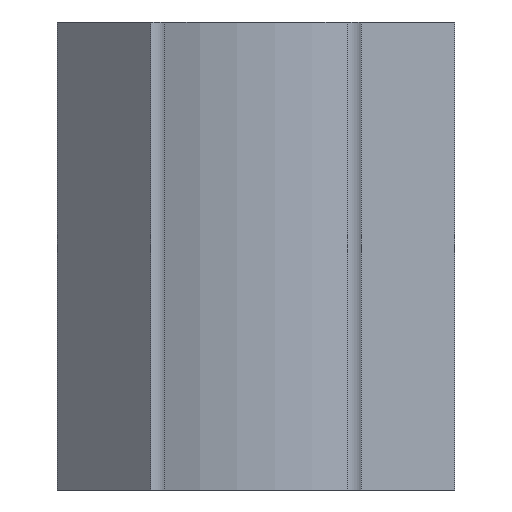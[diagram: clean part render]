
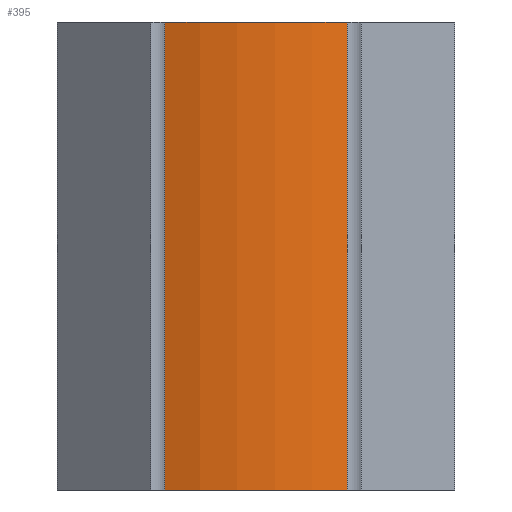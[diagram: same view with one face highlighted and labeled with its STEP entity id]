
A CAD part, front view. The second image highlights one B-rep face of the part: STEP entity #395.
In plain terms, the highlighted cylindrical face has radius 52 mm (diameter 104 mm), a partial arc.
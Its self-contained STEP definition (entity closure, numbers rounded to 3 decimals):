
#3 = AXIS2_PLACEMENT_3D ( 'NONE', #388, #177, #424 ) ;
#10 = ORIENTED_EDGE ( 'NONE', *, *, #37, .T. ) ;
#11 = CIRCLE ( 'NONE', #332, 52. ) ;
#37 = EDGE_CURVE ( 'NONE', #180, #394, #179, .T. ) ;
#45 = ORIENTED_EDGE ( 'NONE', *, *, #404, .T. ) ;
#59 = DIRECTION ( 'NONE',  ( 0., 0., -1. ) ) ;
#69 = VECTOR ( 'NONE', #59, 1000. ) ;
#79 = AXIS2_PLACEMENT_3D ( 'NONE', #320, #124, #353 ) ;
#93 = ORIENTED_EDGE ( 'NONE', *, *, #301, .F. ) ;
#124 = DIRECTION ( 'NONE',  ( 0., 0., 1. ) ) ;
#157 = CARTESIAN_POINT ( 'NONE',  ( -19.535, -18.669, -50. ) ) ;
#167 = VECTOR ( 'NONE', #311, 1000. ) ;
#177 = DIRECTION ( 'NONE',  ( 0., 0., -1. ) ) ;
#178 = CARTESIAN_POINT ( 'NONE',  ( -19.535, -18.669, 50. ) ) ;
#179 = LINE ( 'NONE', #402, #69 ) ;
#180 = VERTEX_POINT ( 'NONE', #178 ) ;
#190 = CARTESIAN_POINT ( 'NONE',  ( 0., 29.522, 50. ) ) ;
#216 = FACE_OUTER_BOUND ( 'NONE', #445, .T. ) ;
#224 = DIRECTION ( 'NONE',  ( 1., 0., 0. ) ) ;
#233 = ORIENTED_EDGE ( 'NONE', *, *, #410, .F. ) ;
#240 = CARTESIAN_POINT ( 'NONE',  ( 19.535, -18.669, 50. ) ) ;
#255 = CYLINDRICAL_SURFACE ( 'NONE', #3, 52. ) ;
#278 = CIRCLE ( 'NONE', #79, 52. ) ;
#301 = EDGE_CURVE ( 'NONE', #368, #418, #339, .T. ) ;
#311 = DIRECTION ( 'NONE',  ( 0., 0., -1. ) ) ;
#320 = CARTESIAN_POINT ( 'NONE',  ( 0., 29.522, -50. ) ) ;
#332 = AXIS2_PLACEMENT_3D ( 'NONE', #190, #432, #224 ) ;
#339 = LINE ( 'NONE', #240, #167 ) ;
#353 = DIRECTION ( 'NONE',  ( 1., 0., 0. ) ) ;
#368 = VERTEX_POINT ( 'NONE', #411 ) ;
#388 = CARTESIAN_POINT ( 'NONE',  ( 0., 29.522, 50. ) ) ;
#394 = VERTEX_POINT ( 'NONE', #157 ) ;
#395 = ADVANCED_FACE ( 'NONE', ( #216 ), #255, .T. ) ;
#401 = CARTESIAN_POINT ( 'NONE',  ( 19.535, -18.669, -50. ) ) ;
#402 = CARTESIAN_POINT ( 'NONE',  ( -19.535, -18.669, 50. ) ) ;
#404 = EDGE_CURVE ( 'NONE', #394, #418, #278, .T. ) ;
#410 = EDGE_CURVE ( 'NONE', #180, #368, #11, .T. ) ;
#411 = CARTESIAN_POINT ( 'NONE',  ( 19.535, -18.669, 50. ) ) ;
#418 = VERTEX_POINT ( 'NONE', #401 ) ;
#424 = DIRECTION ( 'NONE',  ( -1., 0., 0. ) ) ;
#432 = DIRECTION ( 'NONE',  ( 0., 0., 1. ) ) ;
#445 = EDGE_LOOP ( 'NONE', ( #45, #93, #233, #10 ) ) ;
